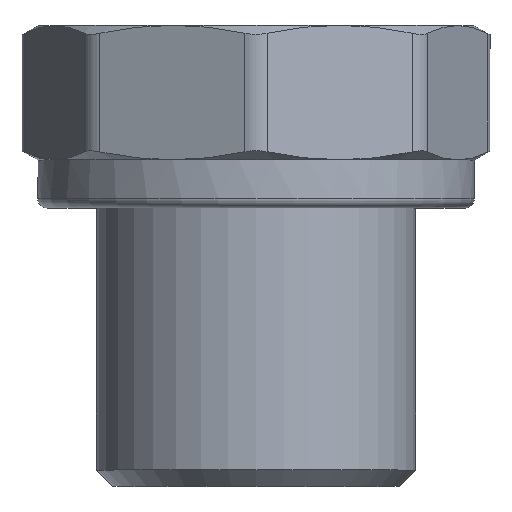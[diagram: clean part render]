
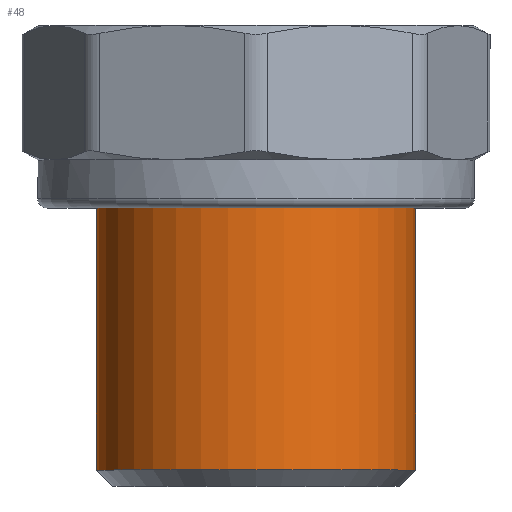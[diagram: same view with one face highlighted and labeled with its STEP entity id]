
A CAD part, top view. The second image highlights one B-rep face of the part: STEP entity #48.
In plain terms, the highlighted cylindrical face has radius 16.625 mm (diameter 33.249 mm), a full revolution.
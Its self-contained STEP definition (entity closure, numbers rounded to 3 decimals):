
#48=ADVANCED_FACE('',(#234,#236),#238,.T.);
#234=FACE_OUTER_BOUND('',#235,.T.);
#235=EDGE_LOOP('',(#1260));
#236=FACE_OUTER_BOUND('',#237,.T.);
#237=EDGE_LOOP('',(#1261));
#238=CYLINDRICAL_SURFACE('',#239,16.625);
#239=AXIS2_PLACEMENT_3D('',#240,#241,#242);
#240=CARTESIAN_POINT('',(0.,0.,0.));
#241=DIRECTION('',(0.,-1.,0.));
#242=DIRECTION('',(1.,0.,0.));
#1260=ORIENTED_EDGE('',*,*,#2294,.F.);
#1261=ORIENTED_EDGE('',*,*,#2297,.F.);
#2294=EDGE_CURVE('',#2709,#2709,#2710,.F.);
#2297=EDGE_CURVE('',#2716,#2717,#2718,.T.);
#2709=VERTEX_POINT('',#3405);
#2710=CIRCLE('',#3406,16.625);
#2716=VERTEX_POINT('',#3421);
#2717=VERTEX_POINT('',#3422);
#2718=CIRCLE('',#3423,16.625);
#3405=CARTESIAN_POINT('',(16.625,-3.,0.));
#3406=AXIS2_PLACEMENT_3D('',#3407,#3408,#3409);
#3407=CARTESIAN_POINT('',(0.,-3.,0.));
#3408=DIRECTION('',(0.,-1.,0.));
#3409=DIRECTION('',(1.,0.,0.));
#3421=CARTESIAN_POINT('',(16.625,-33.8,0.));
#3422=CARTESIAN_POINT('',(16.625,-33.8,0.));
#3423=AXIS2_PLACEMENT_3D('',#3424,#3425,#3426);
#3424=CARTESIAN_POINT('',(0.,-33.8,0.));
#3425=DIRECTION('',(0.,-1.,0.));
#3426=DIRECTION('',(1.,0.,0.));
